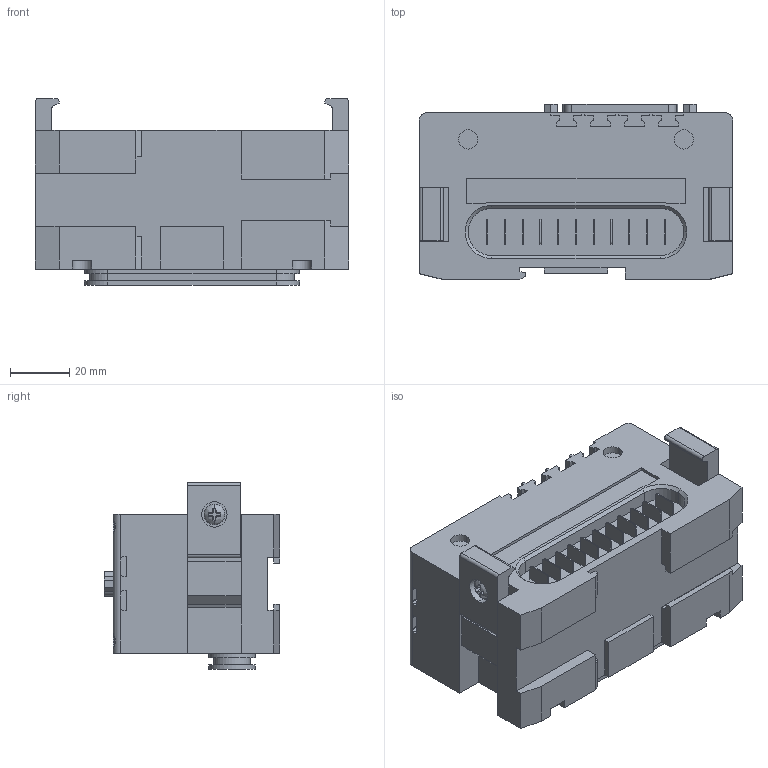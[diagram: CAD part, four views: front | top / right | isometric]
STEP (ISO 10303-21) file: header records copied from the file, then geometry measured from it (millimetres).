
FILE_DESCRIPTION (( 'STEP AP214' ), '1' );
FILE_NAME ('EX600-DYPE.step.step', '2020-02-06T04:58:02', ( '' ), ( '' ), 'SwSTEP 2.0', 'SolidWorks 2019', '' );
FILE_SCHEMA (( 'AUTOMOTIVE_DESIGN' ));
Length unit declared in the file: millimetre
Products named in the file (4): EX600-DYPE.step; EX600-DYPE.step_EX600_BLOCK_CLIP_DEFAULT; EX600-DYPE.step_DB CONN - MALE_25 Pin FT; EX600-DYPE.step_EX600_DIGITAL_BLOCK_D-SUB
Assembly tree (4 placements, depth 2):
  EX600-DYPE.step
    EX600-DYPE.step_EX600_DIGITAL_BLOCK_D-SUB
    EX600-DYPE.step_DB CONN - MALE_25 Pin FT
    EX600-DYPE.step_EX600_BLOCK_CLIP_DEFAULT  x2
Bounding box: 106 x 59.33 x 63.25 mm (x, y, z)
Volume: 251455.3 mm3; surface area: 41589.4 mm2
Topology: 4 solids, 4 shells, 795 faces, 2127 edges, 1366 vertices
Faces by surface type: plane 411, cylinder 293, bspline 62, sphere 18, cone 11
Entity records: 29308 total; most frequent: CARTESIAN_POINT 5869, ORIENTED_EDGE 3834, DIRECTION 3692, EDGE_CURVE 1917, VERTEX_POINT 1260, VECTOR 1254, LINE 1254, AXIS2_PLACEMENT_3D 1219
